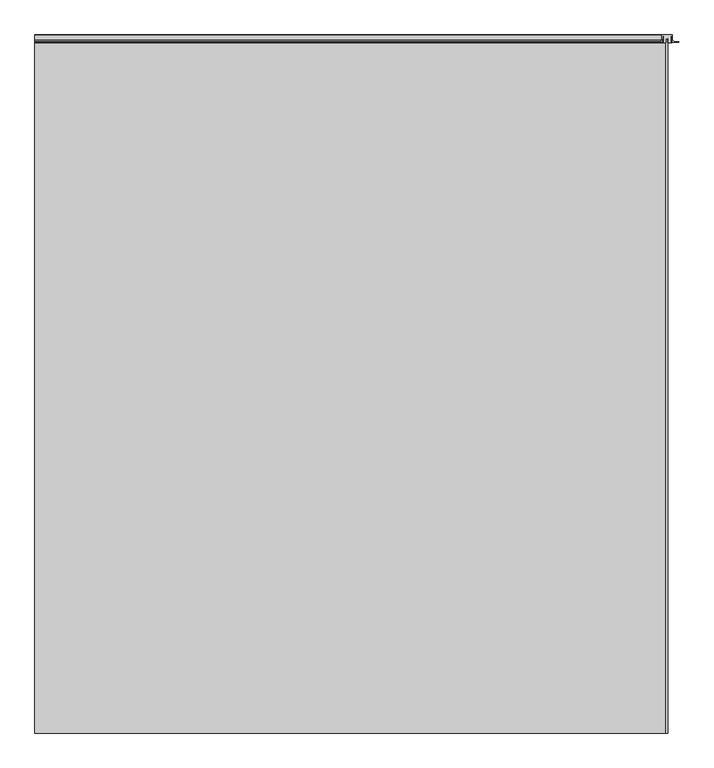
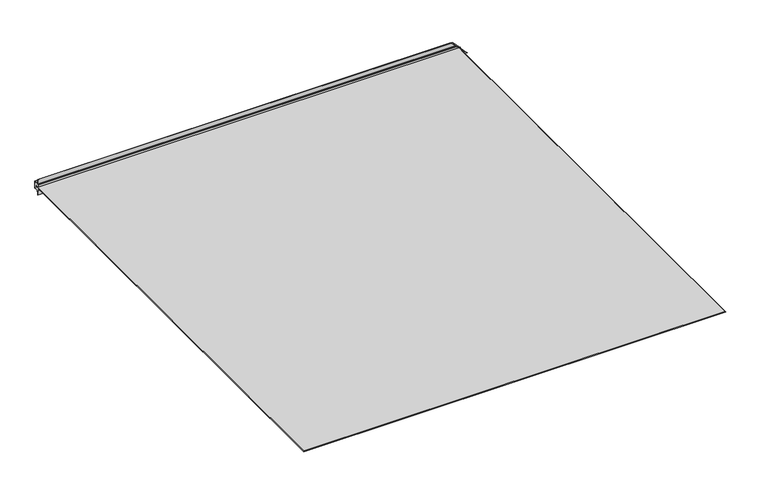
"""IFC4 building model written with IfcOpenShell, lengths in millimetres: proxy geometry, Specialy Equipment_Blindspace_TrackTrim-Click-to-Recess-Curtain-Tracks-Straight-Track : 2400 mm x 2600 mm."""

from ifc_helpers import new_model, si_unit, frame, origin, place, context, project, spatial, polyline, circle_curve, ellipse_curve, outline, extrude, source, transform, mapped, element, save
from ifc_brep_helpers import plane_surface, cylinder_surface, advanced_brep


def specialty_equipment_06bde316(model_context):
    return source(origin(), model_context, "Body", "SolidModel", [
        advanced_brep(
        [(-1200.0, 1300.0, -64.9988864), (-1200.0, 1299.4988864, -65.5), (-1200.0, 1279.5663509, -65.5), (-1200.0, 1274.5, -69.9042163), (-1200.0, 1274.5, -90.0), (-1200.0, 1272.4387528, -90.0), (-1200.0, 1272.4387528, -65.6247497), (-1200.0, 1270.0, -62.6937639), (-1200.0, 1273.6097179, -62.6937639), (-1200.0, 1295.5252948, -60.8778609), (-1200.0, 1295.5252948, -58.8933333), (-1200.0, 1270.0, -58.8933333), (-1200.0, 1270.0, -48.0), (-1200.0, 1286.4878459, -48.0), (-1200.0, 1286.4878459, -42.0), (-1200.0, 1270.0, -42.0), (-1200.0, 1270.0, -31.1066667), (-1200.0, 1295.5252948, -31.1066667), (-1200.0, 1295.5252948, -29.1221391), (-1200.0, 1273.6097179, -27.3062361), (-1200.0, 1270.0, -27.3062361), (-1200.0, 1272.4387528, -24.3752503), (-1200.0, 1272.4387528, 0.0), (-1200.0, 1274.5, 0.0), (-1200.0, 1274.5, -20.0957837), (-1200.0, 1279.5663509, -24.5), (-1200.0, 1299.4988864, -24.5), (-1200.0, 1300.0, -25.0011136), (1174.9988864, 1300.0, -64.9988864), (1175.5, 1299.4988864, -65.5), (1175.5, 1279.5663509, -65.5), (1179.9042163, 1274.5, -69.9042163), (1200.0, 1274.5, -90.0), (1200.0, 1272.4387528, -90.0), (1175.6247497, 1272.4387528, -65.6247497), (1172.6937639, 1270.0, -62.6937639), (1172.6937639, 1273.6097179, -62.6937639), (1137.3062361, 1273.6097179, -27.3062361), (1137.3062361, 1270.0, -27.3062361), (1134.3752503, 1272.4387528, -24.3752503), (1110.0, 1272.4387528, 0.0), (1110.0, 1274.5, 0.0), (1130.0957837, 1274.5, -20.0957837), (1134.5, 1279.5663509, -24.5), (1134.5, 1299.4988864, -24.5), (1135.0011136, 1300.0, -25.0011136), (1170.8778609, 1295.5252948, -60.8778609), (1168.8933333, 1295.5252948, -58.8933333), (1168.8933333, 1270.0, -58.8933333), (1158.0, 1270.0, -48.0), (1158.0, 1286.4878459, -48.0), (1152.0, 1286.4878459, -42.0), (1152.0, 1270.0, -42.0), (1141.1066667, 1270.0, -31.1066667), (1141.1066667, 1295.5252948, -31.1066667), (1139.1221391, 1295.5252948, -29.1221391)],
        [
            (0, 1, circle_curve(frame((-1200.0, 1299.4988864, -64.9988864), z_axis=(-1.0, 0.0, 0.0), x_axis=(0.0, 1.0, 0.0)), 0.5011136)),
            (1, 2),
            (2, 3, circle_curve(frame((-1200.0, 1275.9465479, -66.4521158), z_axis=(-1.0, 0.0, 0.0), x_axis=(0.0, 1.0, 0.0)), 3.7429265)),
            (3, 4),
            (4, 5),
            (5, 6),
            (6, 7),
            (7, 8),
            (8, 9),
            (9, 10),
            (10, 11),
            (11, 12),
            (12, 13),
            (13, 14),
            (14, 15),
            (15, 16),
            (16, 17),
            (17, 18),
            (18, 19),
            (19, 20),
            (20, 21),
            (21, 22),
            (22, 23),
            (23, 24),
            (24, 25, circle_curve(frame((-1200.0, 1275.9465479, -23.5478842), z_axis=(-1.0, 0.0, 0.0), x_axis=(0.0, 1.0, 0.0)), 3.7429265)),
            (25, 26),
            (26, 27, circle_curve(frame((-1200.0, 1299.4988864, -25.0011136), z_axis=(-1.0, 0.0, 0.0), x_axis=(0.0, 1.0, 0.0)), 0.5011136)),
            (27, 0),
            (0, 28),
            (28, 29, ellipse_curve(frame((1174.9988864, 1299.4988864, -64.9988864), z_axis=(-0.707106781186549, 0.0, -0.7071067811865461), x_axis=(-0.7071067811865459, 0.0, 0.707106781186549)), 0.7086816, 0.5011136)),
            (29, 1),
            (29, 30),
            (30, 2),
            (30, 31, ellipse_curve(frame((1176.4521158, 1275.9465479, -66.4521158), z_axis=(-0.707106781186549, 0.0, -0.7071067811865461), x_axis=(-0.7071067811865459, 0.0, 0.707106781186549)), 5.2932974, 3.7429265)),
            (31, 3),
            (31, 32),
            (32, 4),
            (32, 33),
            (33, 5),
            (33, 34),
            (34, 6),
            (34, 35),
            (35, 7),
            (35, 36),
            (36, 8),
            (19, 37),
            (37, 38),
            (38, 20),
            (38, 39),
            (39, 21),
            (39, 40),
            (40, 22),
            (40, 41),
            (41, 23),
            (41, 42),
            (42, 24),
            (42, 43, ellipse_curve(frame((1133.5478842, 1275.9465479, -23.5478842), z_axis=(-0.707106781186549, 0.0, -0.7071067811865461), x_axis=(-0.7071067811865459, 0.0, 0.707106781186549)), 5.2932974, 3.7429265)),
            (43, 25),
            (43, 44),
            (44, 26),
            (44, 45, ellipse_curve(frame((1135.0011136, 1299.4988864, -25.0011136), z_axis=(-0.707106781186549, 0.0, -0.7071067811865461), x_axis=(-0.7071067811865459, 0.0, 0.707106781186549)), 0.7086816, 0.5011136)),
            (45, 27),
            (45, 28),
            (36, 46),
            (46, 9),
            (46, 47),
            (47, 10),
            (47, 48),
            (48, 11),
            (48, 49),
            (49, 12),
            (49, 50),
            (50, 13),
            (50, 51),
            (51, 14),
            (51, 52),
            (52, 15),
            (52, 53),
            (53, 16),
            (53, 54),
            (54, 17),
            (54, 55),
            (55, 18),
            (55, 37),
        ],
        [
            plane_surface(frame((-1200.0, 1300.0, -24.5), z_axis=(-1.0, 0.0, 0.0), x_axis=(0.0, 0.0, 1.0))),
            cylinder_surface(frame((-1200.0, 1299.4988864, -64.9988864), z_axis=(-1.0, 0.0, 0.0), x_axis=(0.0, 1.0, 0.0)), 0.5011136),
            plane_surface(frame((-1200.0, 1299.4988864, -65.5), z_axis=(0.0, 0.0, -1.0), x_axis=(1.0, 0.0, 0.0))),
            cylinder_surface(frame((-1200.0, 1275.9465479, -66.4521158), z_axis=(-1.0, 0.0, 0.0), x_axis=(0.0, 1.0, 0.0)), 3.7429265),
            plane_surface(frame((-1200.0, 1274.5, -69.9042163), z_axis=(0.0, 1.0, 0.0), x_axis=(1.0, 0.0, 0.0))),
            plane_surface(frame((-1200.0, 1274.5, -90.0), z_axis=(0.0, 0.0, -1.0), x_axis=(1.0, 0.0, 0.0))),
            plane_surface(frame((-1200.0, 1272.4387528, -90.0), z_axis=(0.0, -1.0, 0.0), x_axis=(1.0, 0.0, 0.0))),
            plane_surface(frame((-1200.0, 1272.4387528, -65.6247497), z_axis=(0.0, -0.7687028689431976, -0.6396060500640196), x_axis=(1.0, 0.0, 0.0))),
            plane_surface(frame((-1200.0, 1270.0, -62.6937639), z_axis=(0.0, 0.0, 1.0), x_axis=(1.0, 0.0, 0.0))),
            plane_surface(frame((-1200.0, 1273.6097179, -27.3062361), z_axis=(0.0, 0.0, -1.0), x_axis=(1.0, 0.0, 0.0))),
            plane_surface(frame((-1200.0, 1270.0, -27.3062361), z_axis=(0.0, -0.7687028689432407, 0.6396060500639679), x_axis=(1.0, 0.0, 0.0))),
            plane_surface(frame((-1200.0, 1272.4387528, -24.3752503), z_axis=(0.0, -1.0, 0.0), x_axis=(1.0, 0.0, 0.0))),
            plane_surface(frame((-1200.0, 1272.4387528, 0.0), z_axis=(0.0, 0.0, 1.0), x_axis=(1.0, 0.0, 0.0))),
            plane_surface(frame((-1200.0, 1274.5, 0.0), z_axis=(0.0, 1.0, 0.0), x_axis=(1.0, 0.0, 0.0))),
            cylinder_surface(frame((-1200.0, 1275.9465479, -23.5478842), z_axis=(-1.0, 0.0, 0.0), x_axis=(0.0, 1.0, 0.0)), 3.7429265),
            plane_surface(frame((-1200.0, 1279.5663509, -24.5), z_axis=(0.0, 0.0, 1.0), x_axis=(1.0, 0.0, 0.0))),
            cylinder_surface(frame((-1200.0, 1299.4988864, -25.0011136), z_axis=(-1.0, 0.0, 0.0), x_axis=(0.0, 1.0, 0.0)), 0.5011136),
            plane_surface(frame((-1200.0, 1300.0, -25.0011136), z_axis=(0.0, 1.0, 0.0), x_axis=(1.0, 0.0, 0.0))),
            plane_surface(frame((-1200.0, 1273.6097179, -62.6937639), z_axis=(0.0, -0.08257602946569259, 0.9965847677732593), x_axis=(1.0, 0.0, 0.0))),
            plane_surface(frame((-1200.0, 1295.5252948, -60.8778609), z_axis=(0.0, -1.0, 0.0), x_axis=(1.0, 0.0, 0.0))),
            plane_surface(frame((-1200.0, 1295.5252948, -58.8933333), z_axis=(0.0, 0.0, -1.0), x_axis=(1.0, 0.0, 0.0))),
            plane_surface(frame((-1200.0, 1270.0, -58.8933333), z_axis=(0.0, -1.0, 0.0), x_axis=(1.0, 0.0, 0.0))),
            plane_surface(frame((-1200.0, 1270.0, -48.0), z_axis=(0.0, 0.0, 1.0), x_axis=(1.0, 0.0, 0.0))),
            plane_surface(frame((-1200.0, 1286.4878459, -48.0), z_axis=(0.0, -1.0, 0.0), x_axis=(1.0, 0.0, 0.0))),
            plane_surface(frame((-1200.0, 1286.4878459, -42.0), z_axis=(0.0, 0.0, -1.0), x_axis=(1.0, 0.0, 0.0))),
            plane_surface(frame((-1200.0, 1270.0, -42.0), z_axis=(0.0, -1.0, 0.0), x_axis=(1.0, 0.0, 0.0))),
            plane_surface(frame((-1200.0, 1270.0, -31.1066667), z_axis=(0.0, 0.0, 1.0), x_axis=(1.0, 0.0, 0.0))),
            plane_surface(frame((-1200.0, 1295.5252948, -31.1066667), z_axis=(0.0, -1.0, 0.0), x_axis=(1.0, 0.0, 0.0))),
            plane_surface(frame((-1200.0, 1295.5252948, -29.1221391), z_axis=(0.0, -0.08257602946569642, -0.996584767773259), x_axis=(1.0, 0.0, 0.0))),
            plane_surface(frame((1086.0, -1300.0, 24.0), z_axis=(0.707106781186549, 0.0, 0.7071067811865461), x_axis=(0.0, 1.0, 0.0))),
        ],
        [
            (0, [[1, 2, 3, 4, 5, 6, 7, 8, 9, 10, 11, 12, 13, 14, 15, 16, 17, 18, 19, 20, 21, 22, 23, 24, 25, 26, 27, 28]]),
            (1, [[-1, 29, 30, 31]]),
            (2, [[-2, -31, 32, 33]]),
            (3, [[-3, -33, 34, 35]]),
            (4, [[-4, -35, 36, 37]]),
            (5, [[-5, -37, 38, 39]]),
            (6, [[-6, -39, 40, 41]]),
            (7, [[-7, -41, 42, 43]]),
            (8, [[-8, -43, 44, 45]]),
            (9, [[-20, 46, 47, 48]]),
            (10, [[-21, -48, 49, 50]]),
            (11, [[-22, -50, 51, 52]]),
            (12, [[-23, -52, 53, 54]]),
            (13, [[-24, -54, 55, 56]]),
            (14, [[-25, -56, 57, 58]]),
            (15, [[-26, -58, 59, 60]]),
            (16, [[-27, -60, 61, 62]]),
            (17, [[-28, -62, 63, -29]]),
            (18, [[-9, -45, 64, 65]]),
            (19, [[-10, -65, 66, 67]]),
            (20, [[-11, -67, 68, 69]]),
            (21, [[-12, -69, 70, 71]]),
            (22, [[-13, -71, 72, 73]]),
            (23, [[-14, -73, 74, 75]]),
            (24, [[-15, -75, 76, 77]]),
            (25, [[-16, -77, 78, 79]]),
            (26, [[-17, -79, 80, 81]]),
            (27, [[-18, -81, 82, 83]]),
            (28, [[-19, -83, 84, -46]]),
            (29, [[-30, -63, -61, -59, -57, -55, -53, -51, -49, -47, -84, -82, -80, -78, -76, -74, -72, -70, -68, -66, -64, -44, -42, -40, -38, -36, -34, -32]]),
        ],
    ),
        extrude(outline(polyline([(-42.0, -1200.0), (-48.0, -1200.0), (-48.0, 1158.0), (-42.0, 1152.0), (-42.0, -1200.0)])), frame((0.0, -1300.0, 0.0), z_axis=(0.0, 1.0, 0.0), x_axis=(0.0, 0.0, 1.0)), (0.0, 0.0, 1.0), 2586.4878459),
    ])


if __name__ == "__main__":
    model = new_model("IFC4")
    model_context = context("Model", 3, world=origin())
    ifc_project = project(units=[si_unit("LENGTHUNIT", "METRE", prefix="MILLI")], contexts=[model_context])
    site = spatial("IfcSite", under=ifc_project)
    building = spatial("IfcBuilding", under=site)
    placement = place(None, origin())
    specialty_equipment_shape = specialty_equipment_06bde316(model_context)
    element("IfcBuildingElementProxy", 1, Name="Specialy Equipment_Blindspace_TrackTrim-Click-to-Recess-Curtain-Tracks-Straight-Track : 2400 mm x 2600 mm", ObjectType="Specialy Equipment_Blindspace_TrackTrim-Click-to-Recess-Curtain-Tracks-Straight-Track : 2400 mm x 2600 mm", at=placement, inside=building, context=model_context, shape_type="MappedRepresentation", body=[
        mapped(specialty_equipment_shape, transform((0.0, 0.0, 0.0), x_axis=(1.0, 0.0, 0.0), y_axis=(0.0, 1.0, 0.0), z_axis=(0.0, 0.0, 1.0))),
    ])
    save(model, "model.ifc")
